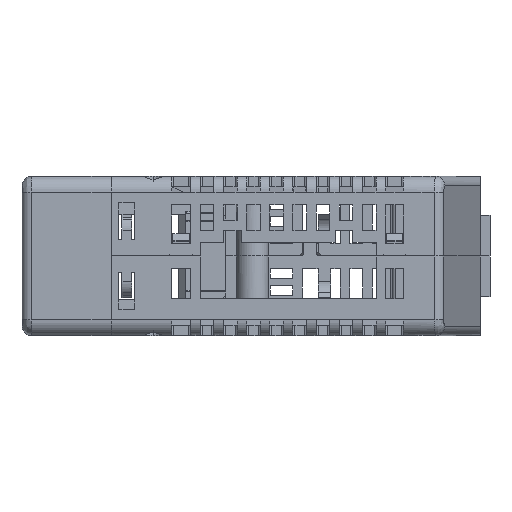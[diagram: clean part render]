
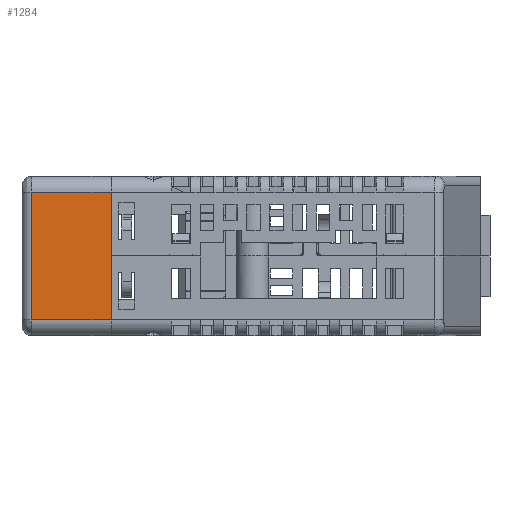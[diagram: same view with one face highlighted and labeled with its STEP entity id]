
A CAD part, left-side view. The second image highlights one B-rep face of the part: STEP entity #1284.
In plain terms, the highlighted planar face has unit normal (-1, 0, 0).
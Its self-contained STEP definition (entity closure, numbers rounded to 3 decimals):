
#290 = ORIENTED_EDGE ( 'NONE', *, *, #63310, .F. ) ;
#1284 = ADVANCED_FACE ( 'NONE', ( #11759 ), #36198, .F. ) ;
#4215 = VECTOR ( 'NONE', #45266, 1000. ) ;
#5312 = CARTESIAN_POINT ( 'NONE',  ( 0., -1.5, -10.025 ) ) ;
#7897 = VECTOR ( 'NONE', #56962, 1000. ) ;
#10747 = CARTESIAN_POINT ( 'NONE',  ( 0., -1.5, 12.5 ) ) ;
#11759 = FACE_OUTER_BOUND ( 'NONE', #43278, .T. ) ;
#11868 = CARTESIAN_POINT ( 'NONE',  ( 0., 0., 10.025 ) ) ;
#19176 = DIRECTION ( 'NONE',  ( 0., 0., -1. ) ) ;
#20621 = LINE ( 'NONE', #11868, #73427 ) ;
#21843 = EDGE_CURVE ( 'NONE', #56055, #57899, #32057, .T. ) ;
#22194 = CARTESIAN_POINT ( 'NONE',  ( 0., -1.5, 10.025 ) ) ;
#32057 = LINE ( 'NONE', #56230, #4215 ) ;
#33363 = CARTESIAN_POINT ( 'NONE',  ( 0., -14., 12.5 ) ) ;
#36198 = PLANE ( 'NONE',  #72713 ) ;
#37190 = EDGE_CURVE ( 'NONE', #56055, #38773, #51253, .T. ) ;
#38773 = VERTEX_POINT ( 'NONE', #58890 ) ;
#41288 = ORIENTED_EDGE ( 'NONE', *, *, #52805, .F. ) ;
#41432 = CARTESIAN_POINT ( 'NONE',  ( 0., -14., 12.5 ) ) ;
#43278 = EDGE_LOOP ( 'NONE', ( #290, #44930, #70638, #41288 ) ) ;
#44930 = ORIENTED_EDGE ( 'NONE', *, *, #21843, .F. ) ;
#45266 = DIRECTION ( 'NONE',  ( 0., 1., 0. ) ) ;
#47141 = DIRECTION ( 'NONE',  ( 1., 0., 0. ) ) ;
#51253 = LINE ( 'NONE', #33363, #64639 ) ;
#52590 = LINE ( 'NONE', #10747, #7897 ) ;
#52805 = EDGE_CURVE ( 'NONE', #74054, #38773, #20621, .T. ) ;
#56055 = VERTEX_POINT ( 'NONE', #74117 ) ;
#56230 = CARTESIAN_POINT ( 'NONE',  ( 0., -14., -10.025 ) ) ;
#56962 = DIRECTION ( 'NONE',  ( 0., 0., 1. ) ) ;
#57899 = VERTEX_POINT ( 'NONE', #5312 ) ;
#58890 = CARTESIAN_POINT ( 'NONE',  ( 0., -14., 10.025 ) ) ;
#62284 = DIRECTION ( 'NONE',  ( 0., 0., 1. ) ) ;
#63310 = EDGE_CURVE ( 'NONE', #57899, #74054, #52590, .T. ) ;
#64639 = VECTOR ( 'NONE', #62284, 1000. ) ;
#68077 = DIRECTION ( 'NONE',  ( 0., -1., 0. ) ) ;
#70638 = ORIENTED_EDGE ( 'NONE', *, *, #37190, .T. ) ;
#72713 = AXIS2_PLACEMENT_3D ( 'NONE', #41432, #47141, #19176 ) ;
#73427 = VECTOR ( 'NONE', #68077, 1000. ) ;
#74054 = VERTEX_POINT ( 'NONE', #22194 ) ;
#74117 = CARTESIAN_POINT ( 'NONE',  ( 0., -14., -10.025 ) ) ;
